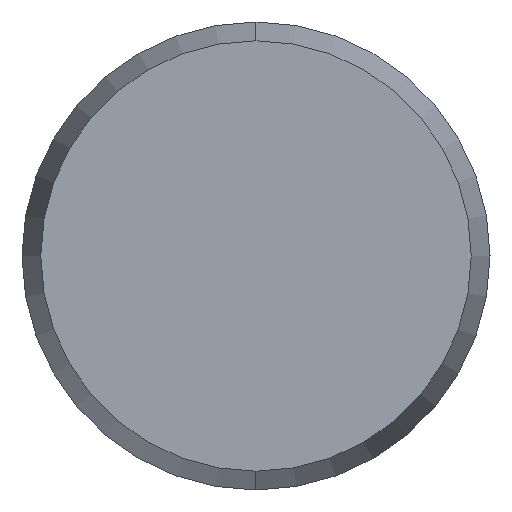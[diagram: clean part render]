
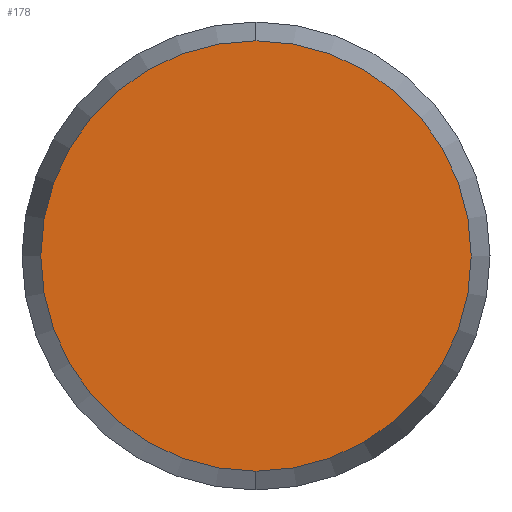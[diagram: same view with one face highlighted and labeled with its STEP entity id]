
A CAD part, left-side view. The second image highlights one B-rep face of the part: STEP entity #178.
In plain terms, the highlighted planar face has unit normal (-1, 0, 0).
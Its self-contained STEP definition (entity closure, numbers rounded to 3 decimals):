
#79 = EDGE_CURVE ( 'NONE', #80, #81, #169, .T. ) ;
#80 = VERTEX_POINT ( 'NONE', #161 ) ;
#81 = VERTEX_POINT ( 'NONE', #160 ) ;
#106 = DIRECTION ( 'NONE',  ( 0., 0., -1. ) ) ;
#107 = DIRECTION ( 'NONE',  ( 1., 0., 0. ) ) ;
#108 = CARTESIAN_POINT ( 'NONE',  ( -18., 0., 0. ) ) ;
#110 = AXIS2_PLACEMENT_3D ( 'NONE', #108, #107, #106 ) ;
#111 = PLANE ( 'NONE',  #110 ) ;
#112 = FACE_OUTER_BOUND ( 'NONE', #226, .T. ) ;
#154 = DIRECTION ( 'NONE',  ( 0., 0., -1. ) ) ;
#155 = DIRECTION ( 'NONE',  ( 1., 0., 0. ) ) ;
#156 = CARTESIAN_POINT ( 'NONE',  ( -18., 0., 0. ) ) ;
#157 = AXIS2_PLACEMENT_3D ( 'NONE', #156, #155, #154 ) ;
#158 = CIRCLE ( 'NONE', #157, 3.678 ) ;
#160 = CARTESIAN_POINT ( 'NONE',  ( -18., 0., -3.678 ) ) ;
#161 = CARTESIAN_POINT ( 'NONE',  ( -18., 0., 3.678 ) ) ;
#162 = DIRECTION ( 'NONE',  ( 0., 0., -1. ) ) ;
#163 = DIRECTION ( 'NONE',  ( 1., 0., 0. ) ) ;
#164 = CARTESIAN_POINT ( 'NONE',  ( -18., 0., 0. ) ) ;
#165 = AXIS2_PLACEMENT_3D ( 'NONE', #164, #163, #162 ) ;
#169 = CIRCLE ( 'NONE', #165, 3.678 ) ;
#178 = ADVANCED_FACE ( 'NONE', ( #112 ), #111, .F. ) ;
#179 = ORIENTED_EDGE ( 'NONE', *, *, #79, .F. ) ;
#180 = ORIENTED_EDGE ( 'NONE', *, *, #224, .F. ) ;
#224 = EDGE_CURVE ( 'NONE', #81, #80, #158, .T. ) ;
#226 = EDGE_LOOP ( 'NONE', ( #179, #180 ) ) ;
